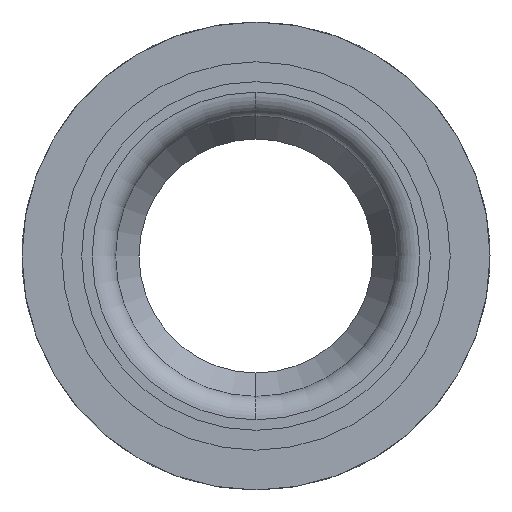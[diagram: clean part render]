
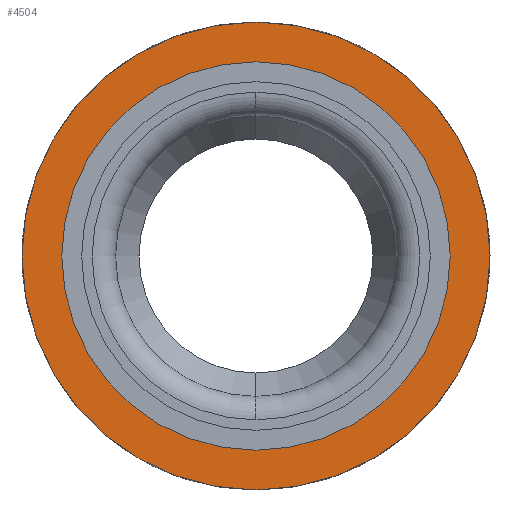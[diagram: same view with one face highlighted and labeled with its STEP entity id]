
A CAD part, front view. The second image highlights one B-rep face of the part: STEP entity #4504.
In plain terms, the highlighted planar face has unit normal (0, -1, 0).
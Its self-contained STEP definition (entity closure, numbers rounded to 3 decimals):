
#2279 = CIRCLE ( 'NONE', #2414, 7.45 ) ;
#2322 = DIRECTION ( 'NONE',  ( 0., 0., -1. ) ) ;
#2323 = DIRECTION ( 'NONE',  ( 0., -1., 0. ) ) ;
#2324 = CARTESIAN_POINT ( 'NONE',  ( 0., -22.5, 0. ) ) ;
#2408 = CARTESIAN_POINT ( 'NONE',  ( 0., -22.5, -7.45 ) ) ;
#2414 = AXIS2_PLACEMENT_3D ( 'NONE', #2324, #2323, #2322 ) ;
#2493 = AXIS2_PLACEMENT_3D ( 'NONE', #2494, #2607, #2606 ) ;
#2494 = CARTESIAN_POINT ( 'NONE',  ( 0., -22.5, 0. ) ) ;
#2495 = CARTESIAN_POINT ( 'NONE',  ( 0., -22.5, 10. ) ) ;
#2518 = CIRCLE ( 'NONE', #2493, 10. ) ;
#2529 = CARTESIAN_POINT ( 'NONE',  ( 0., -22.5, -10. ) ) ;
#2606 = DIRECTION ( 'NONE',  ( 0., 0., -1. ) ) ;
#2607 = DIRECTION ( 'NONE',  ( 0., -1., 0. ) ) ;
#2684 = CARTESIAN_POINT ( 'NONE',  ( 0., -22.5, 7.45 ) ) ;
#3034 = FACE_BOUND ( 'NONE', #4593, .T. ) ;
#3053 = PLANE ( 'NONE',  #3121 ) ;
#3065 = DIRECTION ( 'NONE',  ( 0., 0., -1. ) ) ;
#3082 = FACE_OUTER_BOUND ( 'NONE', #4530, .T. ) ;
#3099 = DIRECTION ( 'NONE',  ( 0., 1., 0. ) ) ;
#3100 = CARTESIAN_POINT ( 'NONE',  ( -10., -22.5, 0. ) ) ;
#3118 = CIRCLE ( 'NONE', #3158, 7.45 ) ;
#3121 = AXIS2_PLACEMENT_3D ( 'NONE', #3100, #3099, #3160 ) ;
#3156 = DIRECTION ( 'NONE',  ( 0., -1., 0. ) ) ;
#3157 = CARTESIAN_POINT ( 'NONE',  ( 0., -22.5, 0. ) ) ;
#3158 = AXIS2_PLACEMENT_3D ( 'NONE', #3157, #3156, #3065 ) ;
#3160 = DIRECTION ( 'NONE',  ( 0., 0., 1. ) ) ;
#3195 = CIRCLE ( 'NONE', #3239, 10. ) ;
#3239 = AXIS2_PLACEMENT_3D ( 'NONE', #3240, #3317, #3316 ) ;
#3240 = CARTESIAN_POINT ( 'NONE',  ( 0., -22.5, 0. ) ) ;
#3316 = DIRECTION ( 'NONE',  ( 0., 0., -1. ) ) ;
#3317 = DIRECTION ( 'NONE',  ( 0., -1., 0. ) ) ;
#4061 = VERTEX_POINT ( 'NONE', #2408 ) ;
#4065 = EDGE_CURVE ( 'NONE', #4061, #4232, #2279, .T. ) ;
#4175 = VERTEX_POINT ( 'NONE', #2529 ) ;
#4189 = EDGE_CURVE ( 'NONE', #4175, #4197, #2518, .T. ) ;
#4197 = VERTEX_POINT ( 'NONE', #2495 ) ;
#4232 = VERTEX_POINT ( 'NONE', #2684 ) ;
#4501 = ORIENTED_EDGE ( 'NONE', *, *, #4591, .T. ) ;
#4503 = ORIENTED_EDGE ( 'NONE', *, *, #4505, .F. ) ;
#4504 = ADVANCED_FACE ( 'NONE', ( #3034, #3082 ), #3053, .F. ) ;
#4505 = EDGE_CURVE ( 'NONE', #4232, #4061, #3118, .T. ) ;
#4506 = ORIENTED_EDGE ( 'NONE', *, *, #4065, .F. ) ;
#4530 = EDGE_LOOP ( 'NONE', ( #4554, #4501 ) ) ;
#4554 = ORIENTED_EDGE ( 'NONE', *, *, #4189, .T. ) ;
#4591 = EDGE_CURVE ( 'NONE', #4197, #4175, #3195, .T. ) ;
#4593 = EDGE_LOOP ( 'NONE', ( #4506, #4503 ) ) ;
